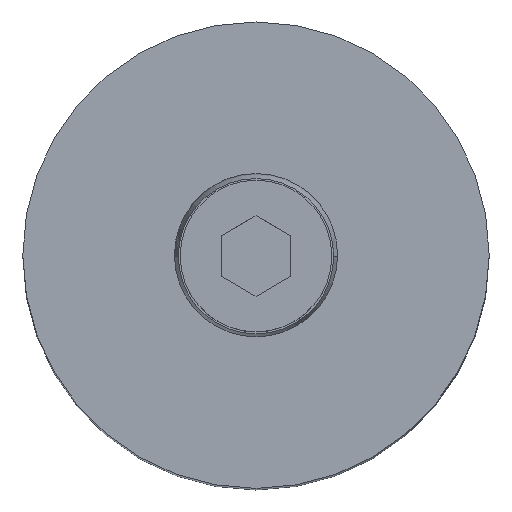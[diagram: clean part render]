
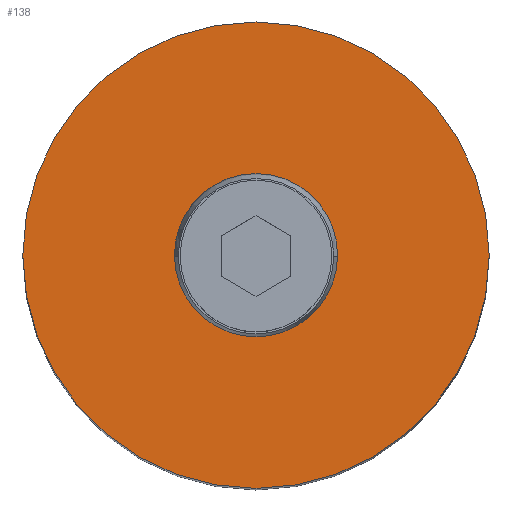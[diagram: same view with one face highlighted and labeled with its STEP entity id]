
A CAD part, top view. The second image highlights one B-rep face of the part: STEP entity #138.
In plain terms, the highlighted planar face has unit normal (0, 0, 1).
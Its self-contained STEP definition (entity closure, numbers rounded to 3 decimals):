
#107=PLANE('',#636);
#122=FACE_BOUND('',#215,.T.);
#123=FACE_BOUND('',#216,.T.);
#138=ADVANCED_FACE('',(#122,#123),#107,.T.);
#215=EDGE_LOOP('',(#297,#298));
#216=EDGE_LOOP('',(#299,#300));
#255=CIRCLE('',#628,20.);
#258=CIRCLE('',#632,20.);
#259=CIRCLE('',#634,7.);
#260=CIRCLE('',#635,7.);
#297=ORIENTED_EDGE('',*,*,#484,.T.);
#298=ORIENTED_EDGE('',*,*,#480,.T.);
#299=ORIENTED_EDGE('',*,*,#485,.F.);
#300=ORIENTED_EDGE('',*,*,#486,.F.);
#434=VERTEX_POINT('',#878);
#435=VERTEX_POINT('',#880);
#437=VERTEX_POINT('',#889);
#438=VERTEX_POINT('',#890);
#480=EDGE_CURVE('',#435,#434,#255,.T.);
#484=EDGE_CURVE('',#434,#435,#258,.T.);
#485=EDGE_CURVE('',#437,#438,#259,.T.);
#486=EDGE_CURVE('',#438,#437,#260,.T.);
#628=AXIS2_PLACEMENT_3D('',#879,#700,#701);
#632=AXIS2_PLACEMENT_3D('',#886,#709,#710);
#634=AXIS2_PLACEMENT_3D('',#888,#713,#714);
#635=AXIS2_PLACEMENT_3D('',#891,#715,#716);
#636=AXIS2_PLACEMENT_3D('',#892,#717,#718);
#700=DIRECTION('',(0.,0.,1.));
#701=DIRECTION('',(0.,1.,0.));
#709=DIRECTION('',(0.,0.,1.));
#710=DIRECTION('',(0.,-1.,0.));
#713=DIRECTION('',(0.,0.,1.));
#714=DIRECTION('',(0.,1.,0.));
#715=DIRECTION('',(0.,0.,1.));
#716=DIRECTION('',(0.,-1.,0.));
#717=DIRECTION('',(0.,0.,1.));
#718=DIRECTION('',(0.,-1.,0.));
#878=CARTESIAN_POINT('',(20.,0.,80.));
#879=CARTESIAN_POINT('',(0.,0.,80.));
#880=CARTESIAN_POINT('',(-20.,0.,80.));
#886=CARTESIAN_POINT('',(0.,0.,80.));
#888=CARTESIAN_POINT('',(0.,0.,80.));
#889=CARTESIAN_POINT('',(-7.,0.,80.));
#890=CARTESIAN_POINT('',(7.,0.,80.));
#891=CARTESIAN_POINT('',(0.,0.,80.));
#892=CARTESIAN_POINT('',(0.,0.,80.));
